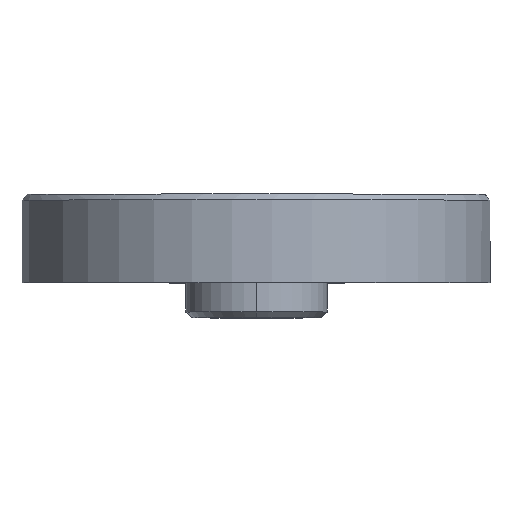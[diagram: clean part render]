
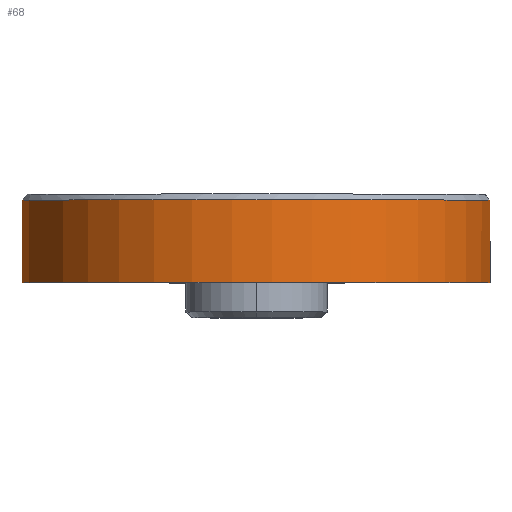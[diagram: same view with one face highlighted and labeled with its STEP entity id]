
A CAD part, top view. The second image highlights one B-rep face of the part: STEP entity #68.
In plain terms, the highlighted cylindrical face has radius 20 mm (diameter 40 mm), a partial arc.
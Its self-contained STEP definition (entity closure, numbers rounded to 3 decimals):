
#67 = DIRECTION ( 'NONE',  ( 0., 1., 0. ) ) ;
#68 = ADVANCED_FACE ( 'NONE', ( #2191 ), #2706, .T. ) ;
#113 = CARTESIAN_POINT ( 'NONE',  ( 19.844, 6., 2.491 ) ) ;
#208 = CARTESIAN_POINT ( 'NONE',  ( 19.844, -1.5, -2.491 ) ) ;
#378 = DIRECTION ( 'NONE',  ( 1., 0., 0. ) ) ;
#460 = CARTESIAN_POINT ( 'NONE',  ( 19.844, -1.5, -2.491 ) ) ;
#550 = CARTESIAN_POINT ( 'NONE',  ( 19.843, -1.5, -2.5 ) ) ;
#593 = CARTESIAN_POINT ( 'NONE',  ( 19.844, 6., -2.491 ) ) ;
#661 = ORIENTED_EDGE ( 'NONE', *, *, #5124, .T. ) ;
#668 = CARTESIAN_POINT ( 'NONE',  ( 0., 6., 0. ) ) ;
#936 = CARTESIAN_POINT ( 'NONE',  ( 0., -1.5, 0. ) ) ;
#1047 = VERTEX_POINT ( 'NONE', #3911 ) ;
#1060 = DIRECTION ( 'NONE',  ( 0., -1., 0. ) ) ;
#1343 = CARTESIAN_POINT ( 'NONE',  ( 19.844, -1.5, 2.491 ) ) ;
#1358 = DIRECTION ( 'NONE',  ( 0., 1., 0. ) ) ;
#1392 = CARTESIAN_POINT ( 'NONE',  ( 19.844, 5.5, -2.491 ) ) ;
#1505 = VERTEX_POINT ( 'NONE', #550 ) ;
#1708 = CARTESIAN_POINT ( 'NONE',  ( 19.844, -1.5, -2.494 ) ) ;
#1934 = ORIENTED_EDGE ( 'NONE', *, *, #4586, .F. ) ;
#1958 = CIRCLE ( 'NONE', #3398, 20. ) ;
#2034 = CARTESIAN_POINT ( 'NONE',  ( 0., 5.5, 0. ) ) ;
#2191 = FACE_OUTER_BOUND ( 'NONE', #5072, .T. ) ;
#2206 = DIRECTION ( 'NONE',  ( 0., -1., 0. ) ) ;
#2334 = EDGE_CURVE ( 'NONE', #1505, #3465, #3255, .T. ) ;
#2339 = DIRECTION ( 'NONE',  ( 1., 0., 0. ) ) ;
#2341 = CIRCLE ( 'NONE', #5262, 20. ) ;
#2402 = LINE ( 'NONE', #113, #5234 ) ;
#2537 = CARTESIAN_POINT ( 'NONE',  ( 19.844, -1.5, 2.497 ) ) ;
#2546 = CARTESIAN_POINT ( 'NONE',  ( 19.843, -1.5, 2.5 ) ) ;
#2706 = CYLINDRICAL_SURFACE ( 'NONE', #4372, 20. ) ;
#2832 = VERTEX_POINT ( 'NONE', #2546 ) ;
#2902 = ORIENTED_EDGE ( 'NONE', *, *, #4330, .T. ) ;
#3255 = B_SPLINE_CURVE_WITH_KNOTS ( 'NONE', 3,
 ( #3833, #4174, #1708, #460 ),
 .UNSPECIFIED., .F., .F.,
 ( 4, 4 ),
 ( 0., 1. ),
 .UNSPECIFIED. ) ;
#3276 = ORIENTED_EDGE ( 'NONE', *, *, #5018, .T. ) ;
#3279 = ORIENTED_EDGE ( 'NONE', *, *, #2334, .F. ) ;
#3351 = CARTESIAN_POINT ( 'NONE',  ( 19.844, -1.5, 2.494 ) ) ;
#3398 = AXIS2_PLACEMENT_3D ( 'NONE', #2034, #4553, #378 ) ;
#3465 = VERTEX_POINT ( 'NONE', #208 ) ;
#3561 = VECTOR ( 'NONE', #2206, 1000. ) ;
#3628 = B_SPLINE_CURVE_WITH_KNOTS ( 'NONE', 3,
 ( #1343, #3351, #2537, #4152 ),
 .UNSPECIFIED., .F., .F.,
 ( 4, 4 ),
 ( 0., 1. ),
 .UNSPECIFIED. ) ;
#3693 = ORIENTED_EDGE ( 'NONE', *, *, #5094, .T. ) ;
#3802 = VERTEX_POINT ( 'NONE', #4621 ) ;
#3833 = CARTESIAN_POINT ( 'NONE',  ( 19.843, -1.5, -2.5 ) ) ;
#3837 = VERTEX_POINT ( 'NONE', #1392 ) ;
#3911 = CARTESIAN_POINT ( 'NONE',  ( 19.844, -1.5, 2.491 ) ) ;
#4152 = CARTESIAN_POINT ( 'NONE',  ( 19.843, -1.5, 2.5 ) ) ;
#4174 = CARTESIAN_POINT ( 'NONE',  ( 19.844, -1.5, -2.497 ) ) ;
#4330 = EDGE_CURVE ( 'NONE', #3837, #3465, #5175, .T. ) ;
#4372 = AXIS2_PLACEMENT_3D ( 'NONE', #668, #1060, #2339 ) ;
#4553 = DIRECTION ( 'NONE',  ( 0., -1., 0. ) ) ;
#4586 = EDGE_CURVE ( 'NONE', #1047, #2832, #3628, .T. ) ;
#4621 = CARTESIAN_POINT ( 'NONE',  ( 19.844, 5.5, 2.491 ) ) ;
#5014 = DIRECTION ( 'NONE',  ( 1., 0., 0. ) ) ;
#5018 = EDGE_CURVE ( 'NONE', #3802, #3837, #1958, .T. ) ;
#5072 = EDGE_LOOP ( 'NONE', ( #2902, #3279, #3693, #1934, #661, #3276 ) ) ;
#5094 = EDGE_CURVE ( 'NONE', #1505, #2832, #2341, .T. ) ;
#5124 = EDGE_CURVE ( 'NONE', #1047, #3802, #2402, .T. ) ;
#5175 = LINE ( 'NONE', #593, #3561 ) ;
#5234 = VECTOR ( 'NONE', #1358, 1000. ) ;
#5262 = AXIS2_PLACEMENT_3D ( 'NONE', #936, #67, #5014 ) ;
